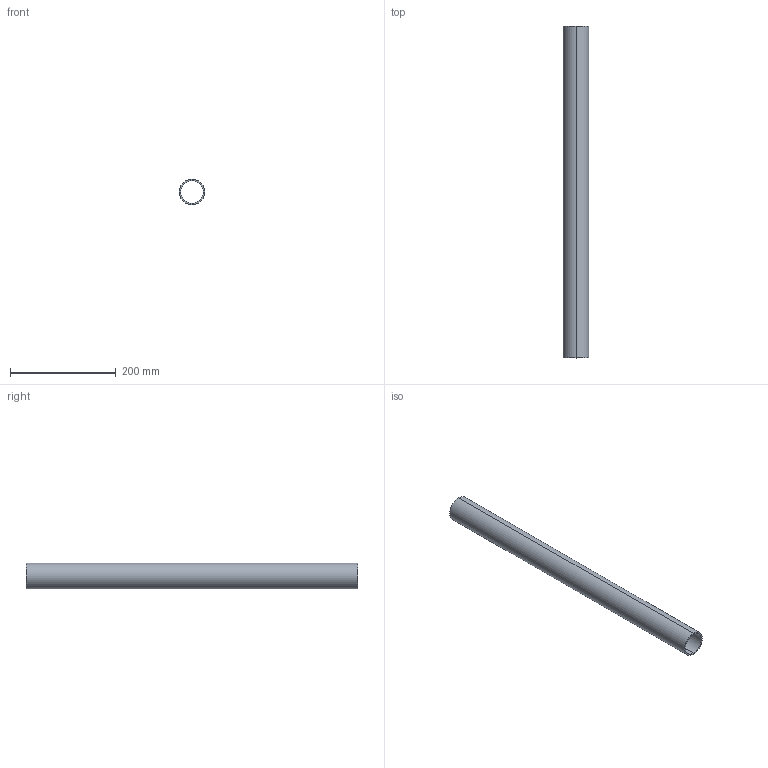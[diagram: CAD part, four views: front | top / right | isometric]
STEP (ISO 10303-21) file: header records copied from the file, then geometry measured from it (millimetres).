
FILE_DESCRIPTION (( 'STEP AP214' ), '1' );
FILE_NAME ('CCJ029-REP.345 - MAIN COURANTE PLATEFORME SUPERIEURE A3-ESCALIER.STEP', '2025-11-04T13:26:22', ( '' ), ( '' ), 'SwSTEP 2.0', 'SolidWorks 2021', '' );
FILE_SCHEMA (( 'AUTOMOTIVE_DESIGN' ));
Length unit declared in the file: millimetre
Products named in the file (1): CCJ029-REP.345 - MAIN COURANTE PLATEFORME SUPERIEURE A3-ESCALIER
Bounding box: 48.3 x 628 x 48.3 mm (x, y, z)
Volume: 225899.4 mm3; surface area: 181438.9 mm2
Topology: 1 solids, 1 shells, 6 faces, 12 edges, 8 vertices
Faces by surface type: cylinder 4, plane 2
Entity records: 202 total; most frequent: DIRECTION 34, CARTESIAN_POINT 27, ORIENTED_EDGE 24, AXIS2_PLACEMENT_3D 15, EDGE_CURVE 12, VERTEX_POINT 8, EDGE_LOOP 8, CIRCLE 8
